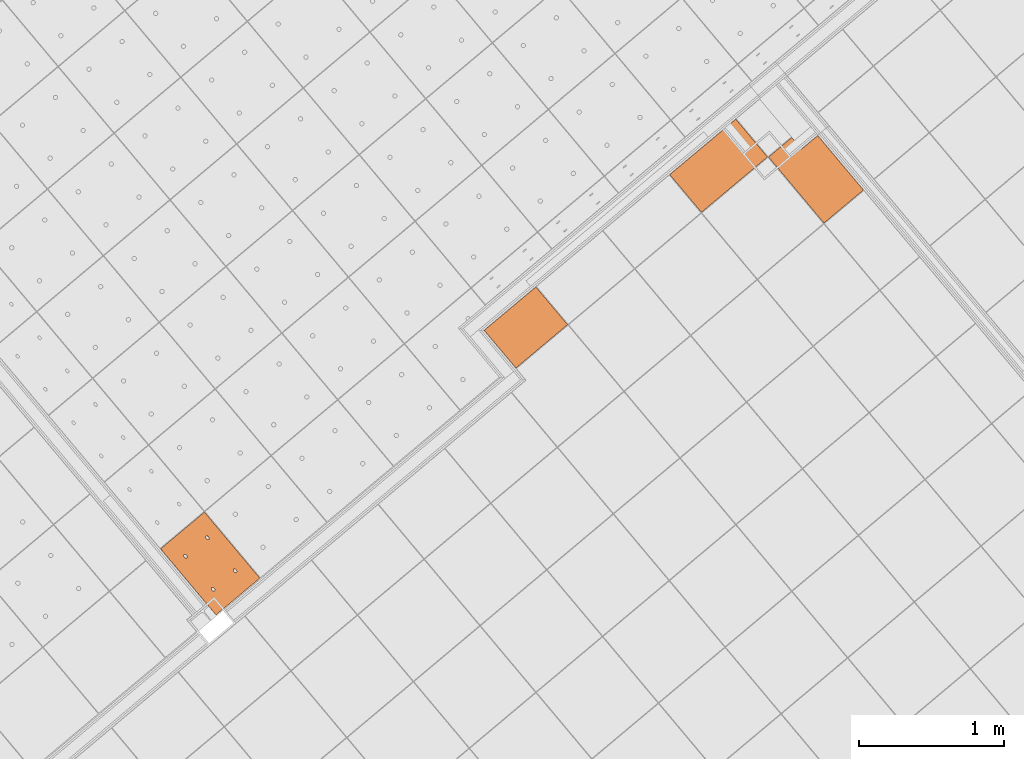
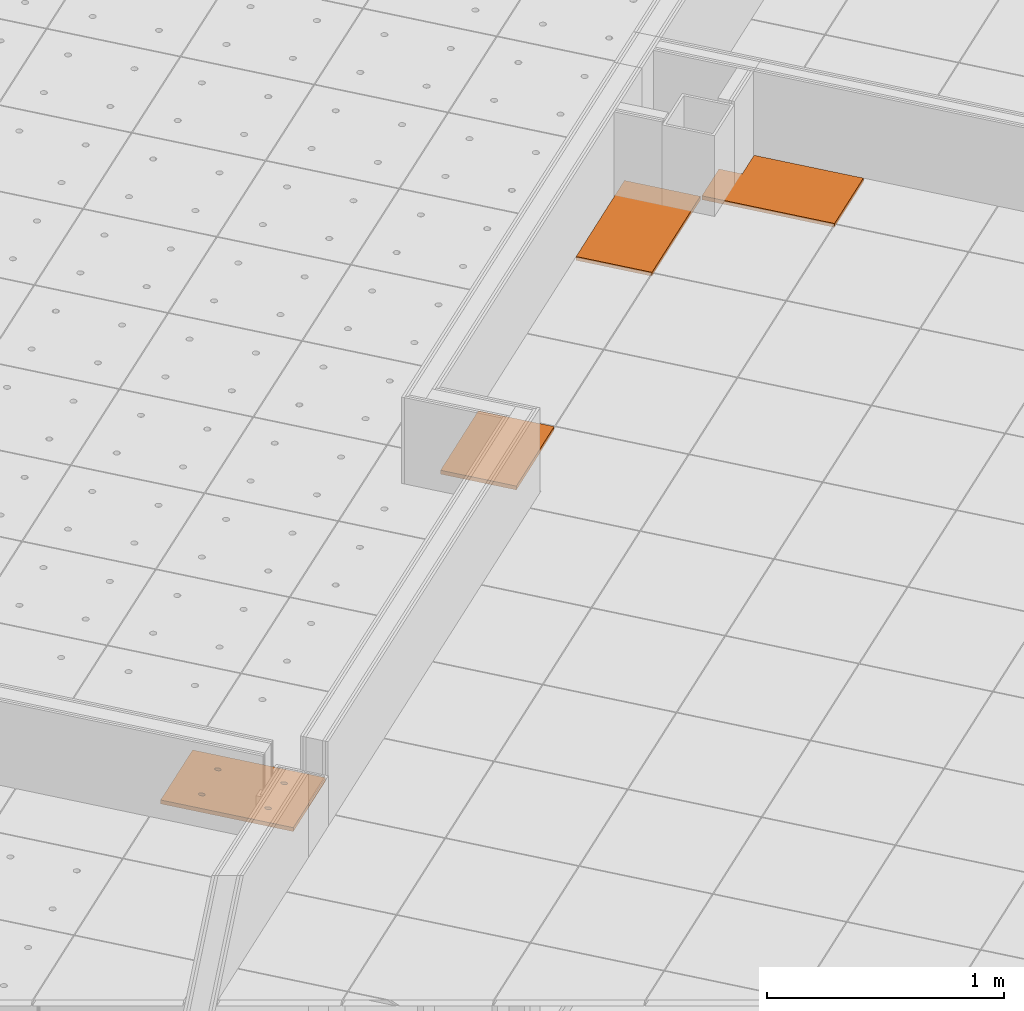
# One storey, part 323 of 338: 4 proxies, 2 elements without a shape of their own.
"""IFC2X3 building model written with IfcOpenShell, lengths in millimetres."""

from ifc_helpers import new_model, entity, si_unit, converted_unit, derived_unit, money_unit, direction, frame, origin_with_axes, place, context, subcontext, project, spatial, faceted_brep, material, type_object, element, aggregate, save


model = new_model("IFC2X3")

# Units and contexts
model_context = context("Model", 3, precision=0.01, world=origin_with_axes(), true_north=direction((0.0, 1.0)))
plan_context = context("Plan", 3, precision=0.01, world=origin_with_axes(), true_north=direction((0.0, 1.0)))
body_context = subcontext(model_context, "Body", "Model", "MODEL_VIEW")
ifc_project = project(units=[si_unit("LENGTHUNIT", "METRE", prefix="MILLI"), si_unit("AREAUNIT", "SQUARE_METRE"), si_unit("VOLUMEUNIT", "CUBIC_METRE"), converted_unit("PLANEANGLEUNIT", "DEGREE", entity("IfcPlaneAngleMeasure", 0.0174532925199), si_unit("PLANEANGLEUNIT", "RADIAN"), dimensions=[0, 0, 0, 0, 0, 0, 0]), money_unit("EUR"), converted_unit("TIMEUNIT", "Year", entity("IfcTimeMeasure", 31556926.0), si_unit("TIMEUNIT", "SECOND"), dimensions=[0, 0, 1, 0, 0, 0, 0]), si_unit("MASSUNIT", "GRAM", prefix="KILO"), si_unit("THERMODYNAMICTEMPERATUREUNIT", "DEGREE_CELSIUS"), si_unit("LUMINOUSINTENSITYUNIT", "LUMEN"), si_unit("ENERGYUNIT", "JOULE", prefix="MEGA"), derived_unit("THERMALCONDUCTANCEUNIT", [(si_unit("POWERUNIT", "WATT"), 1), (si_unit("LENGTHUNIT", "METRE"), -1), (si_unit("THERMODYNAMICTEMPERATUREUNIT", "KELVIN"), -1)]), derived_unit("SPECIFICHEATCAPACITYUNIT", [(si_unit("ENERGYUNIT", "JOULE"), 1), (si_unit("MASSUNIT", "GRAM", prefix="KILO"), -1), (si_unit("THERMODYNAMICTEMPERATUREUNIT", "KELVIN"), -1)]), derived_unit("MASSDENSITYUNIT", [(si_unit("MASSUNIT", "GRAM", prefix="KILO"), 1), (si_unit("VOLUMEUNIT", "CUBIC_METRE"), -1)])], contexts=[model_context, plan_context])

# Site, building, storey
site_placement = place(None, origin_with_axes())
site = spatial("IfcSite", under=ifc_project, at=site_placement, Name="Fortuinstraat Woensdrecht", CompositionType="ELEMENT")
building_placement = place(site_placement, origin_with_axes())
building = spatial("IfcBuilding", under=site, at=building_placement, Name="IKC Fortuna", CompositionType="ELEMENT")
storey_placement = place(building_placement, origin_with_axes())
storey = spatial("IfcBuildingStorey", under=building, at=storey_placement, Name="00 begane grond", CompositionType="ELEMENT", Elevation=0.0)

# Covering, proxies
covering_type = type_object("IfcCoveringType", Name="Curtain Wall Type", PredefinedType="CEILING")
covering_1_placement = place(storey_placement, frame((17937.1227498, -4186.27868692, 4660.0), z_axis=(0.0, 0.0, 1.0), x_axis=(1.0, 0.0, 0.0)))
covering_1 = element("IfcCovering", 1, at=covering_1_placement, inside=storey, type_object=covering_type, Name="45_Plafondafwerking_P02", PredefinedType="CEILING")
ifc_material = material(Name="Gipsplaat")
building_element_proxy_type_1 = type_object("IfcBuildingElementProxyType", Name="Distinct Panel 145 x 105 x 20", PredefinedType="NOTDEFINED")
proxy_1_placement = place(covering_1_placement, frame((-3283.81131076, 6545.52324472, 0.0), z_axis=(0.0, 0.0, 1.0), x_axis=(1.0, 0.0, 0.0)))
proxy_1 = element("IfcBuildingElementProxy", 2, at=proxy_1_placement, type_object=building_element_proxy_type_1, material=ifc_material, Name="__Panel-D", context=body_context, shape_type="Brep", body=[
    faceted_brep([(45.0293836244, 204.459574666, -10.0), (-66.0466070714, 111.255540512, -10.0), (-66.0466070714, 111.255540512, 9.99999999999), (45.0293836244, 204.459574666, 9.99999999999), (360.169670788, -171.109788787, -10.0), (88.027628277, -399.464182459, -10.0), (-294.431106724, 56.332160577, -10.0), (-133.365251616, 191.482539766, -10.0), (-133.365251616, 191.482539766, 9.99999999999), (-294.431106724, 56.332160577, 9.99999999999), (88.027628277, -399.464182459, 9.99999999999), (360.169670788, -171.109788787, 9.99999999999)], [[[0, 1, 2, 3]], [[0, 4, 5, 6, 7, 1]], [[1, 7, 8, 2]], [[3, 2, 8, 9, 10, 11]], [[4, 0, 3, 11]], [[5, 4, 11, 10]], [[6, 5, 10, 9]], [[7, 6, 9, 8]]]),
])
building_element_proxy_type_2 = type_object("IfcBuildingElementProxyType", Name="Distinct Panel 600 x 345 x 20", PredefinedType="NOTDEFINED")
proxy_2_placement = place(covering_1_placement, frame((-3922.54644985, 6541.57444112, 0.0), z_axis=(0.0, 0.0, 1.0), x_axis=(1.0, 0.0, 0.0)))
proxy_2 = element("IfcBuildingElementProxy", 3, at=proxy_2_placement, type_object=building_element_proxy_type_2, material=ifc_material, Name="__Panel-D", context=body_context, shape_type="Brep", body=[
    faceted_brep([(118.536303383, 321.561710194, -10.0), (-337.259736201, -60.8974092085, -10.0), (-337.259736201, -60.8974092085, 9.99999999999), (118.536303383, 321.561710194, 9.99999999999), (337.259814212, 60.8973003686, -10.0), (-118.536529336, -321.561434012, -10.0), (-118.536529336, -321.561434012, 9.99999999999), (337.259814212, 60.8973003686, 9.99999999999)], [[[0, 1, 2, 3]], [[0, 4, 5, 1]], [[1, 5, 6, 2]], [[3, 2, 6, 7]], [[4, 0, 3, 7]], [[5, 4, 7, 6]]]),
])
building_element_proxy_type_3 = type_object("IfcBuildingElementProxyType", Name="Distinct Panel 471 x 345 x 20", PredefinedType="NOTDEFINED")
proxy_3_placement = place(covering_1_placement, frame((-5251.91722804, 5426.09837893, 0.0), z_axis=(0.0, 0.0, 1.0), x_axis=(1.0, 0.0, 0.0)))
proxy_3 = element("IfcBuildingElementProxy", 4, at=proxy_3_placement, type_object=building_element_proxy_type_3, material=ifc_material, Name="__Panel-D", context=body_context, shape_type="Brep", body=[
    faceted_brep([(69.0283579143, 280.018557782, -10.0), (-287.7509426, -19.3554699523, -10.0), (-287.7509426, -19.3554699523, 9.99999999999), (69.0283579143, 280.018557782, 9.99999999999), (287.750903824, 19.3553077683, -10.0), (-69.0284313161, -280.018261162, -10.0), (-69.0284313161, -280.018261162, 9.99999999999), (287.750903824, 19.3553077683, 9.99999999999)], [[[0, 1, 2, 3]], [[0, 4, 5, 1]], [[1, 5, 6, 2]], [[3, 2, 6, 7]], [[4, 0, 3, 7]], [[5, 4, 7, 6]]]),
])
aggregate(covering_1, [proxy_1, proxy_2, proxy_3])

# Covering, proxy
covering_2_placement = place(storey_placement, frame((15863.124366, 4456.31398675, 4619.99995334), z_axis=(0.0, 0.0, 1.0), x_axis=(1.0, 0.0, 0.0)))
covering_2 = element("IfcCovering", 5, at=covering_2_placement, inside=storey, type_object=covering_type, Name="45_Plafondafwerking_P01", PredefinedType="CEILING")
building_element_proxy_type_4 = type_object("IfcBuildingElementProxyType", Name="Main Panel 400 x 495 x 20", PredefinedType="NOTDEFINED")
proxy_4_placement = place(covering_2_placement, frame((-5346.13765725, -4921.60565245, 39.1490992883), z_axis=(0.0, 0.0, 1.0), x_axis=(0.642787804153, -0.766044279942, 0.0)))
proxy_4 = element("IfcBuildingElementProxy", 6, at=proxy_4_placement, type_object=building_element_proxy_type_4, material=ifc_material, Name="__600x086 Rockfon Krios", context=body_context, shape_type="Brep", body=[
    faceted_brep([(-362.531069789, 239.776857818, -11.2961592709), (-362.531069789, 42.3939962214, -10.229289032), (-362.531069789, 42.5020962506, 9.77041882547), (-362.531069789, 239.884957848, 8.70354858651), (-65.0310662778, 239.776857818, -11.2961592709), (232.468937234, 239.776857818, -11.2961592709), (232.468937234, 42.3939962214, -10.229289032), (232.468937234, -154.988865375, -9.16241879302), (-65.0310662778, -154.988865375, -9.16241879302), (-362.531069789, -154.988865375, -9.16241879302), (85.0312654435, 131.133349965, -10.7089323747), (87.616050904, 131.43573879, -10.7105668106), (90.0824244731, 132.031328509, -10.713786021), (92.35544666, 132.90202243, -10.7184921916), (94.3660528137, 134.021364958, -10.724542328), (96.0531517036, 135.355345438, -10.7317525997), (97.3654816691, 136.863431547, -10.7399039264), (98.2631682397, 138.499800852, -10.7487486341), (98.7189356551, 140.214733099, -10.7580179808), (98.7189356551, 141.956120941, -10.7674303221), (98.2631682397, 143.671053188, -10.7766996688), (97.3654816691, 145.307422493, -10.7855443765), (96.0531517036, 146.815508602, -10.7936957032), (94.3660528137, 148.149489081, -10.8009059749), (92.35544666, 149.26883161, -10.8069561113), (90.0824244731, 150.13952553, -10.811662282), (87.616050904, 150.73511525, -10.8148814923), (85.0312654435, 151.037504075, -10.8165159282), (83.718935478, 151.037504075, -10.8165159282), (82.4066055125, 151.037504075, -10.8165159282), (79.821820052, 150.73511525, -10.8148814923), (77.3554464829, 150.13952553, -10.811662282), (75.0824242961, 149.26883161, -10.8069561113), (73.0718181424, 148.149489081, -10.8009059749), (71.3847192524, 146.815508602, -10.7936957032), (70.0723892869, 145.307422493, -10.7855443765), (69.1747027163, 143.671053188, -10.7766996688), (68.718935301, 141.956120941, -10.7674303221), (68.718935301, 140.214733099, -10.7580179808), (69.1747027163, 138.499800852, -10.7487486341), (70.0723892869, 136.863431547, -10.7399039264), (71.3847192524, 135.355345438, -10.7317525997), (73.0718181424, 134.021364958, -10.724542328), (75.0824242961, 132.90202243, -10.7184921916), (77.3554464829, 132.031328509, -10.713786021), (79.821820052, 131.43573879, -10.7105668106), (82.4066055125, 131.133349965, -10.7089323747), (85.0312654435, -66.2495116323, -9.64206213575), (87.616050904, -65.9471228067, -9.64369657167), (90.0824244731, -65.3515330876, -9.64691578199), (92.35544666, -64.4808391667, -9.65162195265), (94.3660528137, -63.3614966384, -9.65767208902), (96.0531517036, -62.0275161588, -9.66488236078), (97.3654816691, -60.5194300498, -9.67303368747), (98.2631682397, -58.8830607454, -9.68187839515), (98.7189356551, -57.168128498, -9.69114774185), (98.7189356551, -55.4267406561, -9.70056008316), (98.2631682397, -53.7118084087, -9.70982942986), (97.3654816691, -52.0754391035, -9.71867413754), (96.0531517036, -50.5673529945, -9.72682546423), (94.3660528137, -49.2333725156, -9.73403573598), (92.35544666, -48.1140299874, -9.74008587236), (90.0824244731, -47.2433360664, -9.74479204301), (87.616050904, -46.6477463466, -9.74801125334), (85.0312654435, -46.3453575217, -9.74964568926), (83.718935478, -46.3453575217, -9.74964568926), (82.4066055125, -46.3453575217, -9.74964568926), (79.821820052, -46.6477463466, -9.74801125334), (77.3554464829, -47.2433360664, -9.74479204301), (75.0824242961, -48.1140299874, -9.74008587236), (73.0718181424, -49.2333725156, -9.73403573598), (71.3847192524, -50.5673529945, -9.72682546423), (70.0723892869, -52.0754391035, -9.71867413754), (69.1747027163, -53.7118084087, -9.70982942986), (68.718935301, -55.4267406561, -9.70056008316), (68.718935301, -57.168128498, -9.69114774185), (69.1747027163, -58.8830607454, -9.68187839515), (70.0723892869, -60.5194300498, -9.67303368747), (71.3847192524, -62.0275161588, -9.66488236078), (73.0718181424, -63.3614966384, -9.65767208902), (75.0824242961, -64.4808391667, -9.65162195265), (77.3554464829, -65.3515330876, -9.64691578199), (79.821820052, -65.9471228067, -9.64369657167), (82.4066055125, -66.2495116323, -9.64206213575), (-212.468738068, -66.2495116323, -9.64206213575), (-209.883952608, -65.9471228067, -9.64369657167), (-207.417579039, -65.3515330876, -9.64691578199), (-205.144556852, -64.4808391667, -9.65162195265), (-203.133950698, -63.3614966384, -9.65767208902), (-201.446851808, -62.0275161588, -9.66488236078), (-200.134521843, -60.5194300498, -9.67303368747), (-199.236835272, -58.8830607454, -9.68187839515), (-198.781067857, -57.168128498, -9.69114774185), (-198.781067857, -55.4267406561, -9.70056008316), (-199.236835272, -53.7118084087, -9.70982942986), (-200.134521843, -52.0754391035, -9.71867413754), (-201.446851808, -50.5673529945, -9.72682546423), (-203.133950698, -49.2333725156, -9.73403573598), (-205.144556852, -48.1140299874, -9.74008587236), (-207.417579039, -47.2433360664, -9.74479204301), (-209.883952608, -46.6477463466, -9.74801125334), (-212.468738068, -46.3453575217, -9.74964568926), (-213.781068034, -46.3453575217, -9.74964568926), (-215.093397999, -46.3453575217, -9.74964568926), (-217.67818346, -46.6477463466, -9.74801125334), (-220.144557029, -47.2433360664, -9.74479204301), (-222.417579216, -48.1140299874, -9.74008587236), (-224.428185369, -49.2333725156, -9.73403573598), (-226.115284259, -50.5673529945, -9.72682546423), (-227.427614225, -52.0754391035, -9.71867413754), (-228.325300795, -53.7118084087, -9.70982942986), (-228.781068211, -55.4267406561, -9.70056008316), (-228.781068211, -57.168128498, -9.69114774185), (-228.325300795, -58.8830607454, -9.68187839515), (-227.427614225, -60.5194300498, -9.67303368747), (-226.115284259, -62.0275161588, -9.66488236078), (-224.428185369, -63.3614966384, -9.65767208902), (-222.417579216, -64.4808391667, -9.65162195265), (-220.144557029, -65.3515330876, -9.64691578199), (-217.67818346, -65.9471228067, -9.64369657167), (-215.093397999, -66.2495116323, -9.64206213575), (-212.468738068, 131.133349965, -10.7089323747), (-209.883952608, 131.43573879, -10.7105668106), (-207.417579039, 132.031328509, -10.713786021), (-205.144556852, 132.90202243, -10.7184921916), (-203.133950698, 134.021364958, -10.724542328), (-201.446851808, 135.355345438, -10.7317525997), (-200.134521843, 136.863431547, -10.7399039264), (-199.236835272, 138.499800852, -10.7487486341), (-198.781067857, 140.214733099, -10.7580179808), (-198.781067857, 141.956120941, -10.7674303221), (-199.236835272, 143.671053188, -10.7766996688), (-200.134521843, 145.307422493, -10.7855443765), (-201.446851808, 146.815508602, -10.7936957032), (-203.133950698, 148.149489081, -10.8009059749), (-205.144556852, 149.26883161, -10.8069561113), (-207.417579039, 150.13952553, -10.811662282), (-209.883952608, 150.73511525, -10.8148814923), (-212.468738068, 151.037504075, -10.8165159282), (-213.781068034, 151.037504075, -10.8165159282), (-215.093397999, 151.037504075, -10.8165159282), (-217.67818346, 150.73511525, -10.8148814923), (-220.144557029, 150.13952553, -10.811662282), (-222.417579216, 149.26883161, -10.8069561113), (-224.428185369, 148.149489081, -10.8009059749), (-226.115284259, 146.815508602, -10.7936957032), (-227.427614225, 145.307422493, -10.7855443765), (-228.325300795, 143.671053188, -10.7766996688), (-228.781068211, 141.956120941, -10.7674303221), (-228.781068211, 140.214733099, -10.7580179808), (-228.325300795, 138.499800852, -10.7487486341), (-227.427614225, 136.863431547, -10.7399039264), (-226.115284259, 135.355345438, -10.7317525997), (-224.428185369, 134.021364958, -10.724542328), (-222.417579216, 132.90202243, -10.7184921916), (-220.144557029, 132.031328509, -10.713786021), (-217.67818346, 131.43573879, -10.7105668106), (-215.093397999, 131.133349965, -10.7089323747), (-362.531069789, -154.880765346, 10.8372890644), (-65.0310662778, -154.880765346, 10.8372890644), (232.468937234, -154.880765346, 10.8372890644), (232.468937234, 42.5020962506, 9.77041882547), (232.468937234, 239.884957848, 8.70354858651), (-65.0310662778, 239.884957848, 8.70354858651), (85.0312654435, 131.241449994, 9.29077548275), (82.4066055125, 131.241449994, 9.29077548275), (79.821820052, 131.543838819, 9.28914104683), (77.3554464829, 132.139428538, 9.2859218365), (75.0824242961, 133.010122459, 9.28121566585), (73.0718181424, 134.129464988, 9.27516552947), (71.3847192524, 135.463445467, 9.26795525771), (70.0723892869, 136.971531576, 9.25980393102), (69.1747027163, 138.607900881, 9.25095922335), (68.718935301, 140.322833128, 9.24168987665), (68.718935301, 142.06422097, 9.23227753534), (69.1747027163, 143.779153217, 9.22300818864), (70.0723892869, 145.415522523, 9.21416348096), (71.3847192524, 146.923608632, 9.20601215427), (73.0718181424, 148.25758911, 9.19880188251), (75.0824242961, 149.376931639, 9.19275174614), (77.3554464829, 150.24762556, 9.18804557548), (79.821820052, 150.843215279, 9.18482636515), (82.4066055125, 151.145604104, 9.18319192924), (83.718935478, 151.145604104, 9.18319192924), (85.0312654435, 151.145604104, 9.18319192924), (87.616050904, 150.843215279, 9.18482636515), (90.0824244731, 150.24762556, 9.18804557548), (92.35544666, 149.376931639, 9.19275174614), (94.3660528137, 148.25758911, 9.19880188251), (96.0531517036, 146.923608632, 9.20601215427), (97.3654816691, 145.415522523, 9.21416348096), (98.2631682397, 143.779153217, 9.22300818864), (98.7189356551, 142.06422097, 9.23227753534), (98.7189356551, 140.322833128, 9.24168987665), (98.2631682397, 138.607900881, 9.25095922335), (97.3654816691, 136.971531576, 9.25980393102), (96.0531517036, 135.463445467, 9.26795525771), (94.3660528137, 134.129464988, 9.27516552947), (92.35544666, 133.010122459, 9.28121566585), (90.0824244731, 132.139428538, 9.2859218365), (87.616050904, 131.543838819, 9.28914104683), (85.0312654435, -66.1414116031, 10.3576457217), (82.4066055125, -66.1414116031, 10.3576457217), (79.821820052, -65.8390227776, 10.3560112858), (77.3554464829, -65.2434330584, 10.3527920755), (75.0824242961, -64.3727391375, 10.3480859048), (73.0718181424, -63.2533966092, 10.3420357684), (71.3847192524, -61.9194161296, 10.3348254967), (70.0723892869, -60.4113300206, 10.32667417), (69.1747027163, -58.7749607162, 10.3178294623), (68.718935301, -57.0600284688, 10.3085601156), (68.718935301, -55.3186406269, 10.2991477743), (69.1747027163, -53.6037083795, 10.2898784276), (70.0723892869, -51.9673390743, 10.2810337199), (71.3847192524, -50.4592529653, 10.2728823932), (73.0718181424, -49.1252724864, 10.2656721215), (75.0824242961, -48.0059299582, 10.2596219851), (77.3554464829, -47.1352360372, 10.2549158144), (79.821820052, -46.5396463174, 10.2516966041), (82.4066055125, -46.2372574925, 10.2500621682), (83.718935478, -46.2372574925, 10.2500621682), (85.0312654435, -46.2372574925, 10.2500621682), (87.616050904, -46.5396463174, 10.2516966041), (90.0824244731, -47.1352360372, 10.2549158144), (92.35544666, -48.0059299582, 10.2596219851), (94.3660528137, -49.1252724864, 10.2656721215), (96.0531517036, -50.4592529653, 10.2728823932), (97.3654816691, -51.9673390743, 10.2810337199), (98.2631682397, -53.6037083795, 10.2898784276), (98.7189356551, -55.3186406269, 10.2991477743), (98.7189356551, -57.0600284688, 10.3085601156), (98.2631682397, -58.7749607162, 10.3178294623), (97.3654816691, -60.4113300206, 10.32667417), (96.0531517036, -61.9194161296, 10.3348254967), (94.3660528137, -63.2533966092, 10.3420357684), (92.35544666, -64.3727391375, 10.3480859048), (90.0824244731, -65.2434330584, 10.3527920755), (87.616050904, -65.8390227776, 10.3560112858), (-212.468738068, -66.1414116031, 10.3576457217), (-215.093397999, -66.1414116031, 10.3576457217), (-217.67818346, -65.8390227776, 10.3560112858), (-220.144557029, -65.2434330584, 10.3527920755), (-222.417579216, -64.3727391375, 10.3480859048), (-224.428185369, -63.2533966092, 10.3420357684), (-226.115284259, -61.9194161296, 10.3348254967), (-227.427614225, -60.4113300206, 10.32667417), (-228.325300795, -58.7749607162, 10.3178294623), (-228.781068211, -57.0600284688, 10.3085601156), (-228.781068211, -55.3186406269, 10.2991477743), (-228.325300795, -53.6037083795, 10.2898784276), (-227.427614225, -51.9673390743, 10.2810337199), (-226.115284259, -50.4592529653, 10.2728823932), (-224.428185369, -49.1252724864, 10.2656721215), (-222.417579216, -48.0059299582, 10.2596219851), (-220.144557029, -47.1352360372, 10.2549158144), (-217.67818346, -46.5396463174, 10.2516966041), (-215.093397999, -46.2372574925, 10.2500621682), (-213.781068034, -46.2372574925, 10.2500621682), (-212.468738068, -46.2372574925, 10.2500621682), (-209.883952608, -46.5396463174, 10.2516966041), (-207.417579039, -47.1352360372, 10.2549158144), (-205.144556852, -48.0059299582, 10.2596219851), (-203.133950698, -49.1252724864, 10.2656721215), (-201.446851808, -50.4592529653, 10.2728823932), (-200.134521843, -51.9673390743, 10.2810337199), (-199.236835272, -53.6037083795, 10.2898784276), (-198.781067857, -55.3186406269, 10.2991477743), (-198.781067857, -57.0600284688, 10.3085601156), (-199.236835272, -58.7749607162, 10.3178294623), (-200.134521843, -60.4113300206, 10.32667417), (-201.446851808, -61.9194161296, 10.3348254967), (-203.133950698, -63.2533966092, 10.3420357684), (-205.144556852, -64.3727391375, 10.3480859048), (-207.417579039, -65.2434330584, 10.3527920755), (-209.883952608, -65.8390227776, 10.3560112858), (-212.468738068, 131.241449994, 9.29077548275), (-215.093397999, 131.241449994, 9.29077548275), (-217.67818346, 131.543838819, 9.28914104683), (-220.144557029, 132.139428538, 9.2859218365), (-222.417579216, 133.010122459, 9.28121566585), (-224.428185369, 134.129464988, 9.27516552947), (-226.115284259, 135.463445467, 9.26795525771), (-227.427614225, 136.971531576, 9.25980393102), (-228.325300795, 138.607900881, 9.25095922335), (-228.781068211, 140.322833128, 9.24168987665), (-228.781068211, 142.06422097, 9.23227753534), (-228.325300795, 143.779153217, 9.22300818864), (-227.427614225, 145.415522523, 9.21416348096), (-226.115284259, 146.923608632, 9.20601215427), (-224.428185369, 148.25758911, 9.19880188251), (-222.417579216, 149.376931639, 9.19275174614), (-220.144557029, 150.24762556, 9.18804557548), (-217.67818346, 150.843215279, 9.18482636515), (-215.093397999, 151.145604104, 9.18319192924), (-213.781068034, 151.145604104, 9.18319192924), (-212.468738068, 151.145604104, 9.18319192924), (-209.883952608, 150.843215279, 9.18482636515), (-207.417579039, 150.24762556, 9.18804557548), (-205.144556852, 149.376931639, 9.19275174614), (-203.133950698, 148.25758911, 9.19880188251), (-201.446851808, 146.923608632, 9.20601215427), (-200.134521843, 145.415522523, 9.21416348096), (-199.236835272, 143.779153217, 9.22300818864), (-198.781067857, 142.06422097, 9.23227753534), (-198.781067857, 140.322833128, 9.24168987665), (-199.236835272, 138.607900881, 9.25095922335), (-200.134521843, 136.971531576, 9.25980393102), (-201.446851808, 135.463445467, 9.26795525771), (-203.133950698, 134.129464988, 9.27516552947), (-205.144556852, 133.010122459, 9.28121566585), (-207.417579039, 132.139428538, 9.2859218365), (-209.883952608, 131.543838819, 9.28914104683)], [[[0, 1, 2, 3]], [[0, 4, 5, 6, 7, 8, 9, 1], [10, 11, 12, 13, 14, 15, 16, 17, 18, 19, 20, 21, 22, 23, 24, 25, 26, 27, 28, 29, 30, 31, 32, 33, 34, 35, 36, 37, 38, 39, 40, 41, 42, 43, 44, 45, 46], [47, 48, 49, 50, 51, 52, 53, 54, 55, 56, 57, 58, 59, 60, 61, 62, 63, 64, 65, 66, 67, 68, 69, 70, 71, 72, 73, 74, 75, 76, 77, 78, 79, 80, 81, 82, 83], [84, 85, 86, 87, 88, 89, 90, 91, 92, 93, 94, 95, 96, 97, 98, 99, 100, 101, 102, 103, 104, 105, 106, 107, 108, 109, 110, 111, 112, 113, 114, 115, 116, 117, 118, 119, 120], [121, 122, 123, 124, 125, 126, 127, 128, 129, 130, 131, 132, 133, 134, 135, 136, 137, 138, 139, 140, 141, 142, 143, 144, 145, 146, 147, 148, 149, 150, 151, 152, 153, 154, 155, 156, 157]], [[1, 9, 158, 2]], [[3, 2, 158, 159, 160, 161, 162, 163], [164, 165, 166, 167, 168, 169, 170, 171, 172, 173, 174, 175, 176, 177, 178, 179, 180, 181, 182, 183, 184, 185, 186, 187, 188, 189, 190, 191, 192, 193, 194, 195, 196, 197, 198, 199, 200], [201, 202, 203, 204, 205, 206, 207, 208, 209, 210, 211, 212, 213, 214, 215, 216, 217, 218, 219, 220, 221, 222, 223, 224, 225, 226, 227, 228, 229, 230, 231, 232, 233, 234, 235, 236, 237], [238, 239, 240, 241, 242, 243, 244, 245, 246, 247, 248, 249, 250, 251, 252, 253, 254, 255, 256, 257, 258, 259, 260, 261, 262, 263, 264, 265, 266, 267, 268, 269, 270, 271, 272, 273, 274], [275, 276, 277, 278, 279, 280, 281, 282, 283, 284, 285, 286, 287, 288, 289, 290, 291, 292, 293, 294, 295, 296, 297, 298, 299, 300, 301, 302, 303, 304, 305, 306, 307, 308, 309, 310, 311]], [[4, 0, 3, 163]], [[5, 4, 163, 162]], [[6, 5, 162, 161]], [[7, 6, 161, 160]], [[8, 7, 160, 159]], [[9, 8, 159, 158]], [[11, 10, 164, 200]], [[12, 11, 200, 199]], [[13, 12, 199, 198]], [[14, 13, 198, 197]], [[15, 14, 197, 196]], [[16, 15, 196, 195]], [[17, 16, 195, 194]], [[18, 17, 194, 193]], [[19, 18, 193, 192]], [[20, 19, 192, 191]], [[21, 20, 191, 190]], [[22, 21, 190, 189]], [[23, 22, 189, 188]], [[24, 23, 188, 187]], [[25, 24, 187, 186]], [[26, 25, 186, 185]], [[27, 26, 185, 184]], [[28, 27, 184, 183]], [[29, 28, 183, 182]], [[30, 29, 182, 181]], [[31, 30, 181, 180]], [[32, 31, 180, 179]], [[33, 32, 179, 178]], [[34, 33, 178, 177]], [[35, 34, 177, 176]], [[36, 35, 176, 175]], [[37, 36, 175, 174]], [[38, 37, 174, 173]], [[39, 38, 173, 172]], [[40, 39, 172, 171]], [[41, 40, 171, 170]], [[42, 41, 170, 169]], [[43, 42, 169, 168]], [[44, 43, 168, 167]], [[45, 44, 167, 166]], [[46, 45, 166, 165]], [[10, 46, 165, 164]], [[48, 47, 201, 237]], [[49, 48, 237, 236]], [[50, 49, 236, 235]], [[51, 50, 235, 234]], [[52, 51, 234, 233]], [[53, 52, 233, 232]], [[54, 53, 232, 231]], [[55, 54, 231, 230]], [[56, 55, 230, 229]], [[57, 56, 229, 228]], [[58, 57, 228, 227]], [[59, 58, 227, 226]], [[60, 59, 226, 225]], [[61, 60, 225, 224]], [[62, 61, 224, 223]], [[63, 62, 223, 222]], [[64, 63, 222, 221]], [[65, 64, 221, 220]], [[66, 65, 220, 219]], [[67, 66, 219, 218]], [[68, 67, 218, 217]], [[69, 68, 217, 216]], [[70, 69, 216, 215]], [[71, 70, 215, 214]], [[72, 71, 214, 213]], [[73, 72, 213, 212]], [[74, 73, 212, 211]], [[75, 74, 211, 210]], [[76, 75, 210, 209]], [[77, 76, 209, 208]], [[78, 77, 208, 207]], [[79, 78, 207, 206]], [[80, 79, 206, 205]], [[81, 80, 205, 204]], [[82, 81, 204, 203]], [[83, 82, 203, 202]], [[47, 83, 202, 201]], [[85, 84, 238, 274]], [[86, 85, 274, 273]], [[87, 86, 273, 272]], [[88, 87, 272, 271]], [[89, 88, 271, 270]], [[90, 89, 270, 269]], [[91, 90, 269, 268]], [[92, 91, 268, 267]], [[93, 92, 267, 266]], [[94, 93, 266, 265]], [[95, 94, 265, 264]], [[96, 95, 264, 263]], [[97, 96, 263, 262]], [[98, 97, 262, 261]], [[99, 98, 261, 260]], [[100, 99, 260, 259]], [[101, 100, 259, 258]], [[102, 101, 258, 257]], [[103, 102, 257, 256]], [[104, 103, 256, 255]], [[105, 104, 255, 254]], [[106, 105, 254, 253]], [[107, 106, 253, 252]], [[108, 107, 252, 251]], [[109, 108, 251, 250]], [[110, 109, 250, 249]], [[111, 110, 249, 248]], [[112, 111, 248, 247]], [[113, 112, 247, 246]], [[114, 113, 246, 245]], [[115, 114, 245, 244]], [[116, 115, 244, 243]], [[117, 116, 243, 242]], [[118, 117, 242, 241]], [[119, 118, 241, 240]], [[120, 119, 240, 239]], [[84, 120, 239, 238]], [[122, 121, 275, 311]], [[123, 122, 311, 310]], [[124, 123, 310, 309]], [[125, 124, 309, 308]], [[126, 125, 308, 307]], [[127, 126, 307, 306]], [[128, 127, 306, 305]], [[129, 128, 305, 304]], [[130, 129, 304, 303]], [[131, 130, 303, 302]], [[132, 131, 302, 301]], [[133, 132, 301, 300]], [[134, 133, 300, 299]], [[135, 134, 299, 298]], [[136, 135, 298, 297]], [[137, 136, 297, 296]], [[138, 137, 296, 295]], [[139, 138, 295, 294]], [[140, 139, 294, 293]], [[141, 140, 293, 292]], [[142, 141, 292, 291]], [[143, 142, 291, 290]], [[144, 143, 290, 289]], [[145, 144, 289, 288]], [[146, 145, 288, 287]], [[147, 146, 287, 286]], [[148, 147, 286, 285]], [[149, 148, 285, 284]], [[150, 149, 284, 283]], [[151, 150, 283, 282]], [[152, 151, 282, 281]], [[153, 152, 281, 280]], [[154, 153, 280, 279]], [[155, 154, 279, 278]], [[156, 155, 278, 277]], [[157, 156, 277, 276]], [[121, 157, 276, 275]]]),
])
aggregate(covering_2, [proxy_4])

save(model, "model.ifc")
